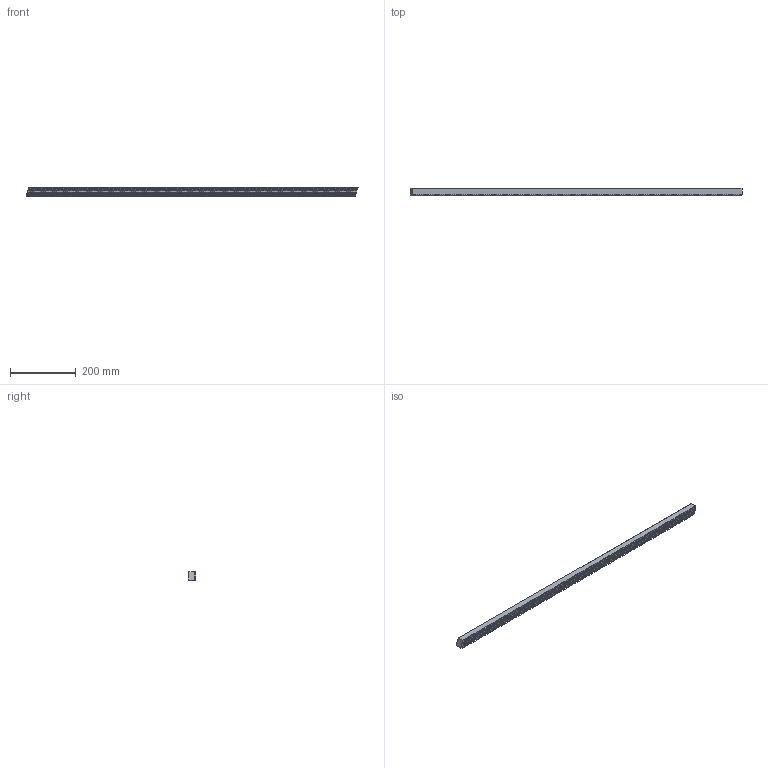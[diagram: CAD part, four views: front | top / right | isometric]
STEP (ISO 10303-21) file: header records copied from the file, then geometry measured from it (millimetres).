
FILE_DESCRIPTION(/* description */ (''),/* implementation_level */ '2;1');
FILE_NAME(/* name */ 'BL-1HR29R020100.ipt',/* time_stamp */ '2019-06-18T14:26:35+02:00',/* author */ ('VĂ©gh MĂˇtĂ©'),/* organization */ ('Bearing Kft'),/* preprocessor_version */ 'ST-DEVELOPER v16.7',/* originating_system */ 'DEX',/* authorisation */ $);
FILE_SCHEMA (('AUTOMOTIVE_DESIGN {1 0 10303 214 3 1 1}'));
Length unit declared in the file: millimetre
Products named in the file (1): BL-1HR29R020100.ipt
Bounding box: 1008.87 x 24 x 25 mm (x, y, z)
Volume: 544421.7 mm3; surface area: 118578.1 mm2
Topology: 1 solids, 1 shells, 1232 faces, 3522 edges, 2348 vertices
Faces by surface type: plane 851, bspline 379, cylinder 2
Entity records: 45750 total; most frequent: CARTESIAN_POINT 15286, ORIENTED_EDGE 7024, DIRECTION 5066, EDGE_CURVE 3512, LINE 2750, VECTOR 2750, VERTEX_POINT 2348, EDGE_LOOP 1298
